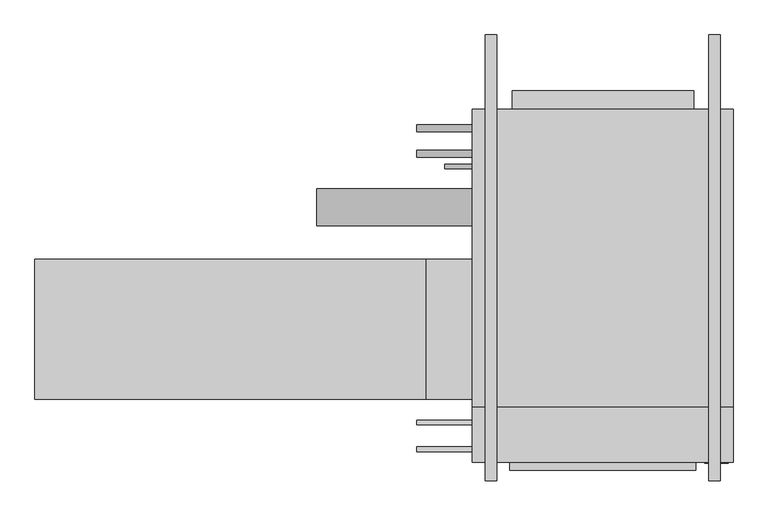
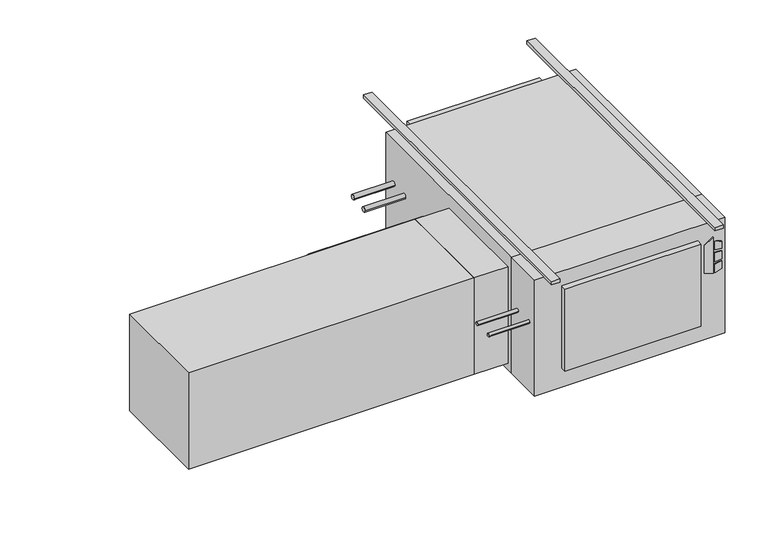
"""IFC4 building model written with IfcOpenShell, lengths in millimetres: proxy geometry."""

import ifcopenshell
import ifcopenshell.guid

model = None  # the IFC model being written
_history = None  # IfcOwnerHistory: only IFC2X3 demands one
_inside = {}  # id of a spatial element -> (the spatial element, [elements in it])
_under = {}  # id of a project, library or spatial element -> (it, [spatial elements below it])
_declared = {}  # id of a project -> (the project, [libraries it declares])
_typed = {}  # id of a type object -> (the type object, [elements of that type])
_made_of = {}  # id of a material, layer set ... -> (it, [elements and type objects made of it])


def new_model(schema):
    """Start an empty IFC model of exactly this schema.

    Asked for "IFC4X3", IfcOpenShell would pick the latest addendum, in which some entities
    have other attributes; the version numbers below select the first issue.
    IFC2X3 requires an IfcOwnerHistory on every rooted entity: one is made here for all.
    """
    global model, _history
    if schema == "IFC4X3":
        model = ifcopenshell.file(schema_version=(4, 3, 0, 0))
    else:
        model = ifcopenshell.file(schema=schema)
    _inside.clear()
    _under.clear()
    _declared.clear()
    _typed.clear()
    _made_of.clear()
    _history = None
    if model.schema == "IFC2X3":
        org = make("IfcOrganization", Name="unknown")
        user = make(
            "IfcPersonAndOrganization",
            ThePerson=make("IfcPerson", FamilyName="unknown"),
            TheOrganization=org,
        )
        app = make(
            "IfcApplication",
            ApplicationDeveloper=org,
            Version="unknown",
            ApplicationFullName="unknown",
            ApplicationIdentifier="unknown",
        )
        _history = make(
            "IfcOwnerHistory",
            OwningUser=user,
            OwningApplication=app,
            ChangeAction="ADDED",
            CreationDate=0,
        )
    return model


def make(cls, **values):
    """One entity of the class cls with the attributes given. An attribute that is None is left unset."""
    return model.create_entity(
        cls, **{name: value for name, value in values.items() if value is not None}
    )


def rooted(cls, **values):
    """An entity with a GlobalId (a new one), such as an element, a storey or a relation."""
    return make(cls, GlobalId=ifcopenshell.guid.new(), OwnerHistory=_history, **values)


def si_unit(unit_type, name, prefix=None):
    """IfcSIUnit, for example si_unit("LENGTHUNIT", "METRE", prefix="MILLI")."""
    return make("IfcSIUnit", UnitType=unit_type, Prefix=prefix, Name=name)


def assignment(units):
    """IfcUnitAssignment: the units of a project."""
    return None if units is None else make("IfcUnitAssignment", Units=units)


def point(xyz):
    """IfcCartesianPoint."""
    return None if xyz is None else make("IfcCartesianPoint", Coordinates=xyz)


def direction(xyz):
    """IfcDirection."""
    return None if xyz is None else make("IfcDirection", DirectionRatios=xyz)


def frame(location, z_axis=None, x_axis=None):
    """IfcAxis2Placement3D, a coordinate frame: its origin and axes. An axis left out is left unset."""
    return make(
        "IfcAxis2Placement3D",
        Location=point(location),
        Axis=direction(z_axis),
        RefDirection=direction(x_axis),
    )


def frame_2d(location, x_axis=None):
    """IfcAxis2Placement2D, a coordinate frame in the plane: its origin and x axis."""
    return make(
        "IfcAxis2Placement2D", Location=point(location), RefDirection=direction(x_axis)
    )


def origin():
    """The frame at (0, 0, 0) with its axes left unset."""
    return frame((0.0, 0.0, 0.0))


def origin_with_axes():
    """The frame at (0, 0, 0) with the z axis (0, 0, 1) and the x axis (1, 0, 0) written out."""
    return frame((0.0, 0.0, 0.0), z_axis=(0.0, 0.0, 1.0), x_axis=(1.0, 0.0, 0.0))


def place(relative_to, where):
    """IfcLocalPlacement: puts the frame where relative to a parent placement (None: the world)."""
    return make(
        "IfcLocalPlacement", PlacementRelTo=relative_to, RelativePlacement=where
    )


def context(
    kind, dimensions, precision=None, world=None, true_north=None, identifier=None
):
    """IfcGeometricRepresentationContext, for example the 3D "Model" context."""
    return make(
        "IfcGeometricRepresentationContext",
        ContextIdentifier=identifier,
        ContextType=kind,
        CoordinateSpaceDimension=dimensions,
        Precision=precision,
        WorldCoordinateSystem=world,
        TrueNorth=true_north,
    )


def project(units=None, contexts=None):
    """IfcProject with its units and contexts."""
    return rooted(
        "IfcProject",
        Name="project",
        RepresentationContexts=contexts,
        UnitsInContext=assignment(units),
    )


def spatial(cls, under=None, at=None, **own):
    """A site, building, storey or space (cls), placed at a placement, below another one or the project."""
    s = rooted(cls, ObjectPlacement=at, **own)
    if under is not None:
        _under.setdefault(under.id(), (under, []))[1].append(s)
    return s


def polyline(points):
    """IfcPolyline through the points."""
    return make("IfcPolyline", Points=[point(p) for p in points])


def circle_curve(where, radius):
    """IfcCircle in the frame where."""
    return make("IfcCircle", Position=where, Radius=radius)


def trimmed(basis, trim1, trim2, sense, master):
    """IfcTrimmedCurve: the piece of a basis curve between two trims."""
    return make(
        "IfcTrimmedCurve",
        BasisCurve=basis,
        Trim1=trim1,
        Trim2=trim2,
        SenseAgreement=sense,
        MasterRepresentation=master,
    )


def segment(curve, same_sense, transition):
    """IfcCompositeCurveSegment."""
    return make(
        "IfcCompositeCurveSegment",
        Transition=transition,
        SameSense=same_sense,
        ParentCurve=curve,
    )


def composite_curve(segments, self_intersect=None):
    """IfcCompositeCurve: segments joined end to end."""
    return make("IfcCompositeCurve", Segments=segments, SelfIntersect=self_intersect)


def outline(outer, holes=None, kind="AREA"):
    """IfcArbitraryClosedProfileDef: a profile drawn as a closed curve; with holes, ...WithVoids."""
    if holes is None:
        return make("IfcArbitraryClosedProfileDef", ProfileType=kind, OuterCurve=outer)
    return make(
        "IfcArbitraryProfileDefWithVoids",
        ProfileType=kind,
        OuterCurve=outer,
        InnerCurves=holes,
    )


def extrude(swept, where, along, depth):
    """IfcExtrudedAreaSolid: the profile swept, set in the frame where, extruded along a direction by depth."""
    return make(
        "IfcExtrudedAreaSolid",
        SweptArea=swept,
        Position=where,
        ExtrudedDirection=direction(along),
        Depth=depth,
    )


def shape(context_of_items, identifier, shape_type, items):
    """IfcShapeRepresentation: the items that make up one representation, for example the "Body"."""
    return make(
        "IfcShapeRepresentation",
        ContextOfItems=context_of_items,
        RepresentationIdentifier=identifier,
        RepresentationType=shape_type,
        Items=items,
    )


def source(mapping_origin, context_of_items, identifier, shape_type, items):
    """IfcRepresentationMap: a shape defined once, which mapped items show again and again."""
    return make(
        "IfcRepresentationMap",
        MappingOrigin=mapping_origin,
        MappedRepresentation=shape(context_of_items, identifier, shape_type, items),
    )


def transform(
    local_origin,
    x_axis=None,
    y_axis=None,
    z_axis=None,
    scale=None,
    scale2=None,
    scale3=None,
    uniform=True,
):
    """IfcCartesianTransformationOperator3D, or its non-uniform kind. x_axis, y_axis, z_axis: its Axis1, 2, 3."""
    if uniform:
        return make(
            "IfcCartesianTransformationOperator3D",
            Axis1=direction(x_axis),
            Axis2=direction(y_axis),
            LocalOrigin=point(local_origin),
            Scale=scale,
            Axis3=direction(z_axis),
        )
    return make(
        "IfcCartesianTransformationOperator3DnonUniform",
        Axis1=direction(x_axis),
        Axis2=direction(y_axis),
        LocalOrigin=point(local_origin),
        Scale=scale,
        Axis3=direction(z_axis),
        Scale2=scale2,
        Scale3=scale3,
    )


def mapped(mapping_source, mapping_target):
    """IfcMappedItem: shows the shape of a source again, moved by a transform."""
    return make(
        "IfcMappedItem", MappingSource=mapping_source, MappingTarget=mapping_target
    )


def made_of(thing, what):
    """Note that an element or type object is made of a material, layer set ...; save() writes the relation."""
    if what is not None:
        _made_of.setdefault(what.id(), (what, []))[1].append(thing)
    return thing


def element(
    cls,
    number,
    at=None,
    inside=None,
    cuts=None,
    type_object=None,
    material=None,
    context=None,
    identifier="Body",
    shape_type=None,
    held_by="IfcProductDefinitionShape",
    body=None,
    shapes=None,
    **own,
):
    """One element of the class cls, such as IfcWall. Its Tag is "e" and its number.

    at: its placement. inside: the storey or other place that contains it. cuts: it is an
    opening in that element (IfcRelVoidsElement). A single representation is given by context,
    identifier, shape_type and body (its items); several are given by shapes. held_by: the class
    of the entity that holds the representations. save() writes the other relations.
    """
    e = rooted(cls, Tag="e%d" % number, ObjectPlacement=at, **own)
    if body is not None:
        shapes = [shape(context, identifier, shape_type, body)]
    if shapes is not None:
        e.Representation = make(held_by, Representations=shapes)
    if inside is not None:
        _inside.setdefault(inside.id(), (inside, []))[1].append(e)
    if cuts is not None:
        rooted(
            "IfcRelVoidsElement", RelatingBuildingElement=cuts, RelatedOpeningElement=e
        )
    if type_object is not None:
        _typed.setdefault(type_object.id(), (type_object, []))[1].append(e)
    return made_of(e, material)


def aggregate(whole, parts):
    """IfcRelAggregates: a whole, such as a stair, and the parts it consists of."""
    return rooted("IfcRelAggregates", RelatingObject=whole, RelatedObjects=parts)


def save(model, path):
    """Write the relations noted so far, then the file.

    IfcRelAggregates (storeys below a building ...), IfcRelContainedInSpatialStructure (elements
    in a storey), IfcRelDefinesByType, IfcRelAssociatesMaterial and IfcRelDeclares: one each for
    every whole, place, type object, material and project.
    """
    for whole, parts in _under.values():
        aggregate(whole, parts)
    for where, things in _inside.values():
        rooted(
            "IfcRelContainedInSpatialStructure",
            RelatedElements=things,
            RelatingStructure=where,
        )
    for kind, things in _typed.values():
        rooted("IfcRelDefinesByType", RelatedObjects=things, RelatingType=kind)
    for what, things in _made_of.values():
        rooted("IfcRelAssociatesMaterial", RelatedObjects=things, RelatingMaterial=what)
    for by, libraries in _declared.values():
        rooted("IfcRelDeclares", RelatingContext=by, RelatedDefinitions=libraries)
    model.write(path)


def mechanical_equipment_9ba4c479(model_context):
    return source(origin(), model_context, "Body", "SweptSolid", [
        extrude(outline(polyline([(-193.2519297, 430.2868862), (-203.2, 462.4602728), (-61.0290756, 462.4602728), (-84.0510817, 430.2868862), (-193.2519297, 430.2868862)])), frame((0.0, -797.052, 0.0), z_axis=(0.0, 1.0, 0.0), x_axis=(0.0, 0.0, 1.0)), (0.0, 0.0, 1.0), 3.175),
        extrude(outline(polyline([(-114.2526443, 469.2186058), (-117.4550368, 495.3), (-88.2261958, 495.3), (-80.1617807, 469.2186058), (-114.2526443, 469.2186058)])), frame((0.0, -797.052, 0.0), z_axis=(0.0, 1.0, 0.0), x_axis=(0.0, 0.0, 1.0)), (0.0, 0.0, 1.0), 3.175),
        extrude(outline(polyline([(-166.1161712, 495.3), (-169.7816721, 469.2186058), (-203.2, 469.2186058), (-194.5657628, 495.3), (-166.1161712, 495.3)])), frame((0.0, -797.052, 0.0), z_axis=(0.0, 1.0, 0.0), x_axis=(0.0, 0.0, 1.0)), (0.0, 0.0, 1.0), 3.175),
        extrude(outline(polyline([(-126.8010097, 495.3), (-124.5191834, 469.2186058), (-160.4567319, 469.2186058), (-157.7154669, 495.3), (-126.8010097, 495.3)])), frame((0.0, -797.052, 0.0), z_axis=(0.0, 1.0, 0.0), x_axis=(0.0, 0.0, 1.0)), (0.0, 0.0, 1.0), 3.175),
        extrude(outline(polyline([(508.0, -793.877), (-203.2, -793.877), (-203.2, -644.525), (508.0, -644.525), (508.0, -793.877)])), frame((0.0, 0.0, -457.2), z_axis=(0.0, 0.0, 1.0), x_axis=(1.0, 0.0, 0.0)), (0.0, 0.0, 1.0), 457.2),
        extrude(outline(polyline([(406.4, -816.229), (-101.6, -816.229), (-101.6, -793.877), (406.4, -793.877), (406.4, -816.229)])), frame((0.0, 0.0, -381.0), z_axis=(0.0, 0.0, 1.0), x_axis=(1.0, 0.0, 0.0)), (0.0, 0.0, 1.0), 323.85),
        extrude(outline(polyline([(-1397.0, -622.3), (-1397.0, -241.3), (-330.2, -241.3), (-330.2, -622.3), (-1397.0, -622.3)])), frame((0.0, 0.0, -431.8), z_axis=(0.0, 0.0, 1.0), x_axis=(1.0, 0.0, 0.0)), (0.0, 0.0, 1.0), 381.0),
        extrude(outline(polyline([(-203.2, -241.3), (-203.2, -622.3), (-330.2, -622.3), (-330.2, -241.3), (-203.2, -241.3)])), frame((0.0, 0.0, -431.8), z_axis=(0.0, 0.0, 1.0), x_axis=(1.0, 0.0, 0.0)), (0.0, 0.0, 1.0), 381.0),
        extrude(outline(composite_curve([segment(trimmed(circle_curve(frame_2d((-758.825, -184.15)), 6.35), [point((-765.175, -184.15))], [point((-752.475, -184.15))], False, "CARTESIAN"), True, "CONTINUOUS"), segment(trimmed(circle_curve(frame_2d((-758.825, -184.15)), 6.35), [point((-752.475, -184.15))], [point((-765.175, -184.15))], False, "CARTESIAN"), True, "CONTINUOUS")], self_intersect=False)), frame((-355.6, 0.0, 0.0), z_axis=(1.0, 0.0, 0.0), x_axis=(0.0, 1.0, 0.0)), (0.0, 0.0, 1.0), 152.4),
        extrude(outline(composite_curve([segment(trimmed(circle_curve(frame_2d((-685.8, -184.15)), 6.35), [point((-692.15, -184.15))], [point((-679.45, -184.15))], False, "CARTESIAN"), True, "CONTINUOUS"), segment(trimmed(circle_curve(frame_2d((-685.8, -184.15)), 6.35), [point((-679.45, -184.15))], [point((-692.15, -184.15))], False, "CARTESIAN"), True, "CONTINUOUS")], self_intersect=False)), frame((-355.6, 0.0, 0.0), z_axis=(1.0, 0.0, 0.0), x_axis=(0.0, 1.0, 0.0)), (0.0, 0.0, 1.0), 152.4),
        extrude(outline(composite_curve([segment(trimmed(circle_curve(frame_2d((-98.4896516, -228.6360165)), 50.8), [point((-149.2896516, -228.6360165))], [point((-47.6896516, -228.6360165))], False, "CARTESIAN"), True, "CONTINUOUS"), segment(trimmed(circle_curve(frame_2d((-98.4896516, -228.6360165)), 50.8), [point((-47.6896516, -228.6360165))], [point((-149.2896516, -228.6360165))], False, "CARTESIAN"), True, "CONTINUOUS")], self_intersect=False)), frame((-628.65, 0.0, 0.0), z_axis=(1.0, 0.0, 0.0), x_axis=(0.0, 1.0, 0.0)), (0.0, 0.0, 1.0), 425.45),
        extrude(outline(composite_curve([segment(trimmed(circle_curve(frame_2d((47.625, -177.8)), 9.525), [point((38.1, -177.8))], [point((57.15, -177.8))], False, "CARTESIAN"), True, "CONTINUOUS"), segment(trimmed(circle_curve(frame_2d((47.625, -177.8)), 9.525), [point((57.15, -177.8))], [point((38.1, -177.8))], False, "CARTESIAN"), True, "CONTINUOUS")], self_intersect=False)), frame((-355.6, 0.0, 0.0), z_axis=(1.0, 0.0, 0.0), x_axis=(0.0, 1.0, 0.0)), (0.0, 0.0, 1.0), 152.4),
        extrude(outline(composite_curve([segment(trimmed(circle_curve(frame_2d((117.475, -171.45)), 9.525), [point((107.95, -171.45))], [point((127.0, -171.45))], False, "CARTESIAN"), True, "CONTINUOUS"), segment(trimmed(circle_curve(frame_2d((117.475, -171.45)), 9.525), [point((127.0, -171.45))], [point((107.95, -171.45))], False, "CARTESIAN"), True, "CONTINUOUS")], self_intersect=False)), frame((-355.6, 0.0, 0.0), z_axis=(1.0, 0.0, 0.0), x_axis=(0.0, 1.0, 0.0)), (0.0, 0.0, 1.0), 152.4),
        extrude(outline(composite_curve([segment(trimmed(circle_curve(frame_2d((12.7, -409.575)), 6.35), [point((6.35, -409.575))], [point((19.05, -409.575))], False, "CARTESIAN"), True, "CONTINUOUS"), segment(trimmed(circle_curve(frame_2d((12.7, -409.575)), 6.35), [point((19.05, -409.575))], [point((6.35, -409.575))], False, "CARTESIAN"), True, "CONTINUOUS")], self_intersect=False)), frame((-279.4, 0.0, 0.0), z_axis=(1.0, 0.0, 0.0), x_axis=(0.0, 1.0, 0.0)), (0.0, 0.0, 1.0), 76.2),
        extrude(outline(polyline([(508.0, 168.275), (508.0, -644.525), (-203.2, -644.525), (-203.2, 168.275), (508.0, 168.275)])), frame((0.0, 0.0, -457.2), z_axis=(0.0, 0.0, 1.0), x_axis=(1.0, 0.0, 0.0)), (0.0, 0.0, 1.0), 457.2),
        extrude(outline(polyline([(-95.25, 219.075), (400.05, 219.075), (400.05, 168.275), (-95.25, 168.275), (-95.25, 219.075)])), frame((0.0, 0.0, -381.0), z_axis=(0.0, 0.0, 1.0), x_axis=(1.0, 0.0, 0.0)), (0.0, 0.0, 1.0), 355.6),
        extrude(outline(polyline([(-136.525, 371.475), (-136.525, -844.677), (-168.275, -844.677), (-168.275, 371.475), (-136.525, 371.475)])), origin_with_axes(), (0.0, 0.0, 1.0), 12.7),
        extrude(outline(polyline([(473.075, 371.475), (473.075, -844.677), (441.325, -844.677), (441.325, 371.475), (473.075, 371.475)])), origin_with_axes(), (0.0, 0.0, 1.0), 12.7),
    ])


if __name__ == "__main__":
    model = new_model("IFC4")
    model_context = context("Model", 3, world=origin())
    ifc_project = project(units=[si_unit("LENGTHUNIT", "METRE", prefix="MILLI")], contexts=[model_context])
    site = spatial("IfcSite", under=ifc_project)
    building = spatial("IfcBuilding", under=site)
    placement = place(None, origin())
    mechanical_equipment_shape = mechanical_equipment_9ba4c479(model_context)
    element("IfcBuildingElementProxy", 1, Name="High_Capacity_Horizontal_Cabinet_Fan_Coil_Unit_-_HTY_-_IEC_-_4-Pipe_LH Side_2022 : Size 08 - 115v/60Hz/1Ph - 4/1 Coil - 4\" AirIn", ObjectType="High_Capacity_Horizontal_Cabinet_Fan_Coil_Unit_-_HTY_-_IEC_-_4-Pipe_LH Side_2022 : Size 08 - 115v/60Hz/1Ph - 4/1 Coil - 4\" AirIn", at=placement, inside=building, context=model_context, shape_type="MappedRepresentation", body=[
        mapped(mechanical_equipment_shape, transform((0.0, 0.0, 0.0), x_axis=(1.0, 0.0, 0.0), y_axis=(0.0, 1.0, 0.0), z_axis=(0.0, 0.0, 1.0))),
    ])
    save(model, "model.ifc")
